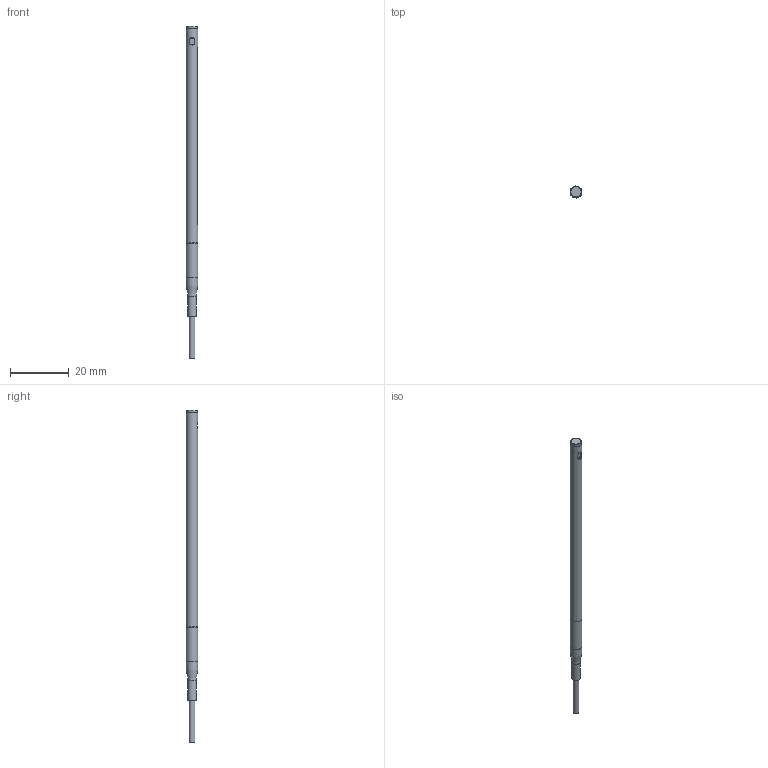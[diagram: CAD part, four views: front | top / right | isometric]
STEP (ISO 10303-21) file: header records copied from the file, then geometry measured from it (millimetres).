
FILE_DESCRIPTION((''),'2;1');
FILE_NAME('K:\ME\CAD Daten\IFS2402\90\IFS2402_90_XX.stp','2013-11-07T07:53:11',('mt'),(''),'Autodesk Inventor 2012','Autodesk Inventor 2012','');
FILE_SCHEMA(('AUTOMOTIVE_DESIGN { 1 0 10303 214 1 1 1 1 }'));
Length unit declared in the file: millimetre
Products named in the file (13): IFS2402/90-XX.iam (Detailgenauigkeit1); 10; 20; 30; 40; ferrule
Assembly tree (12 placements, depth 3):
  IFS2402/90-XX.iam (Detailgenauigkeit1)
    10
    10
    10
    10
    10
    20
    30
    40
      40
      ferrule
    10
    10
Bounding box: 4 x 4 x 113.45 mm (x, y, z)
Volume: 1027.1 mm3; surface area: 5271.8 mm2
Topology: 11 solids, 11 shells, 60 faces, 101 edges, 65 vertices
Faces by surface type: plane 32, cylinder 23, cone 3, revolution 2
Full cylindrical faces by diameter (mm): 0.4 x1, 1.712 x1, 1.8 x3, 2 x1, 2.3 x4, 2.5 x4, 2.922 x1, 3 x2, 3.5 x1, 3.7 x1, 3.897 x1, 4 x1
Entity records: 1833 total; most frequent: CARTESIAN_POINT 320, DIRECTION 283, ORIENTED_EDGE 148, AXIS2_PLACEMENT_3D 130, EDGE_LOOP 103, EDGE_CURVE 74, VERTEX_POINT 63, FACE_OUTER_BOUND 60
